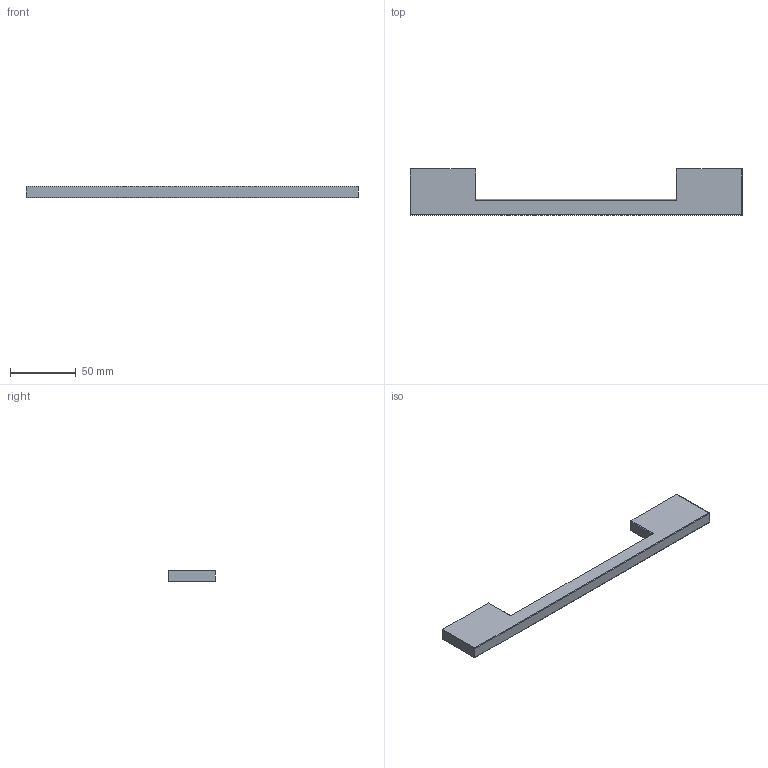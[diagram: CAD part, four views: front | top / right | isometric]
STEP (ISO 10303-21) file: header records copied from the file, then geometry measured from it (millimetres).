
FILE_DESCRIPTION( ( '' ), '1' );
FILE_NAME( 'D:/1.AUTOCAD EXPORT/Group 10/sheet_10_1/DONE/Sachin_1/9995586.stp', '2013-10-29T10:02:34', ( '' ), ( '' ), ' ', ' ', ' ' );
FILE_SCHEMA( ( 'CONFIG_CONTROL_DESIGN' ) );
Length unit declared in the file: millimetre
Products named in the file (1): 1
Bounding box: 252 x 35 x 9 mm (x, y, z)
Volume: 47114.9 mm3; surface area: 16066.6 mm2
Topology: 1 solids, 1 shells, 26 faces, 62 edges, 40 vertices
Faces by surface type: cylinder 15, plane 11
Entity records: 828 total; most frequent: CARTESIAN_POINT 165, DIRECTION 134, ORIENTED_EDGE 124, EDGE_CURVE 62, AXIS2_PLACEMENT_3D 49, VERTEX_POINT 40, LINE 36, VECTOR 36
